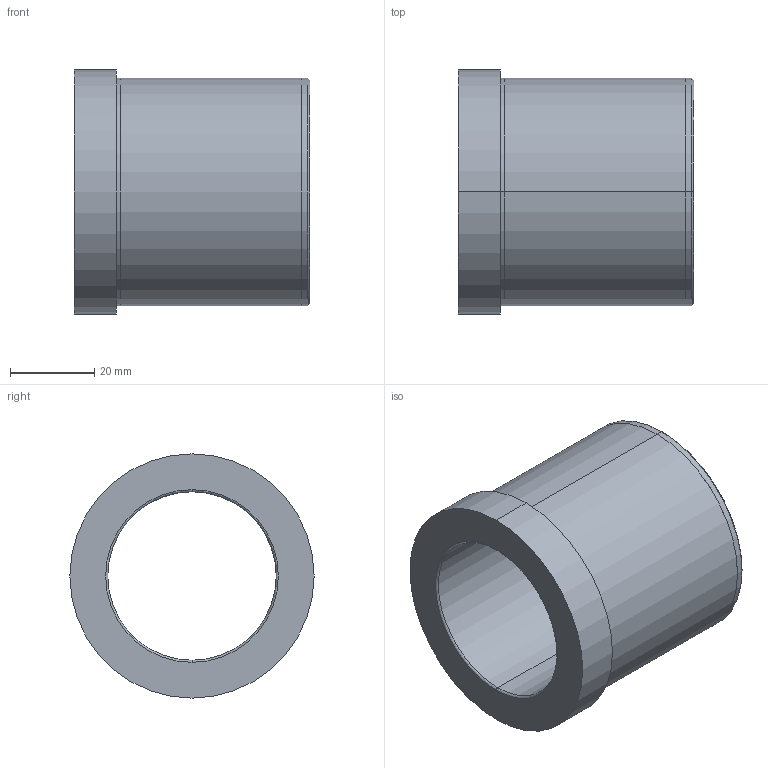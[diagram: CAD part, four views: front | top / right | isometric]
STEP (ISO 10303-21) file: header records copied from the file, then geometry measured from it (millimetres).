
FILE_DESCRIPTION( ( 'STEP AP203' ), '1' );
FILE_NAME( 'C:/Projects/D20 - 40x56.step', '2002-12-31T23:56:02', ( ' ' ), ( ' ' ), 'XStep 1.0', ' ', ' ' );
FILE_SCHEMA( ( 'CONFIG_CONTROL_DESIGN' ) );
Length unit declared in the file: metre
Products named in the file (1): 1
Bounding box: 56 x 58 x 58 mm (x, y, z)
Volume: 61437.6 mm3; surface area: 19336.3 mm2
Topology: 1 solids, 1 shells, 21 faces, 42 edges, 26 vertices
Faces by surface type: revolution 12, bspline 9
Entity records: 671 total; most frequent: CARTESIAN_POINT 201, ORIENTED_EDGE 84, DIRECTION 78, EDGE_CURVE 42, AXIS2_PLACEMENT_3D 27, EDGE_LOOP 26, VERTEX_POINT 26, CIRCLE 26
